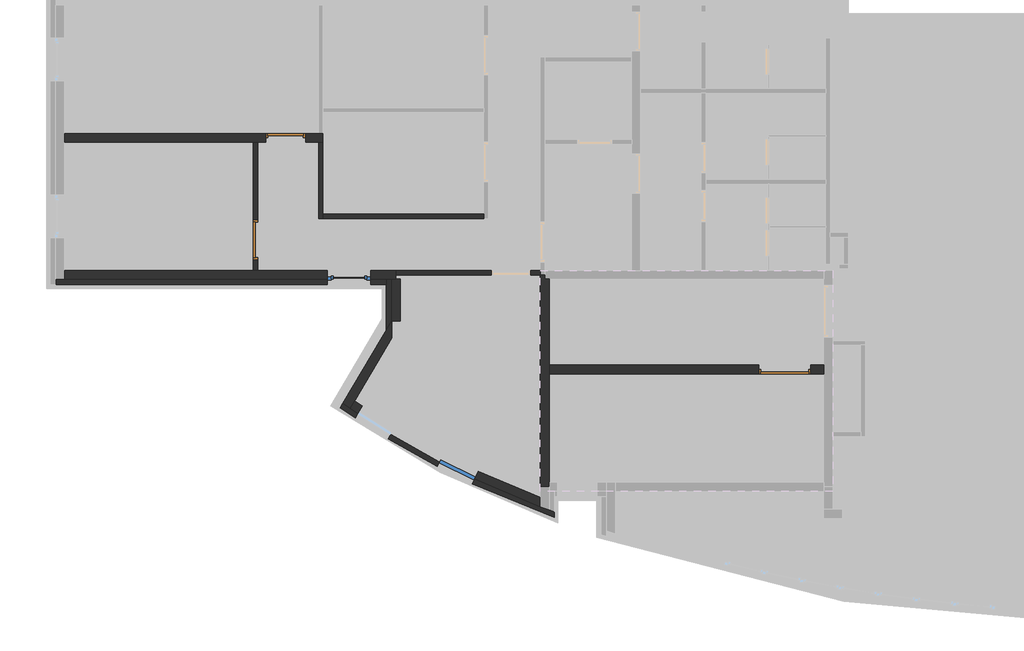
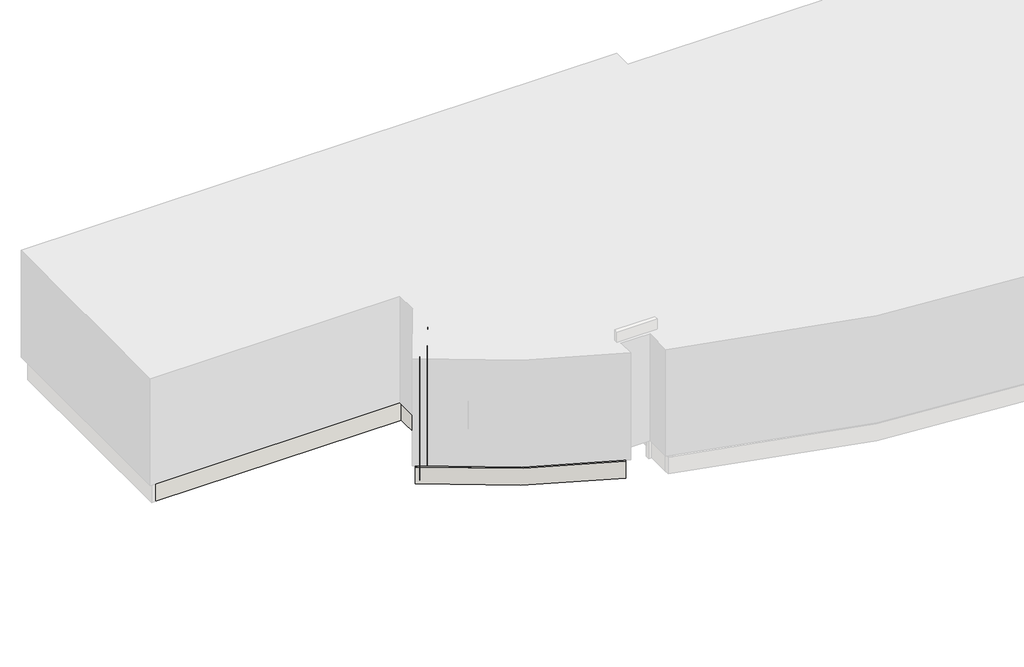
# One storey, part 2 of 4: 20 walls, 3 doors, 2 windows.
"""IFC4 building model written with IfcOpenShell, lengths in millimetres."""

from ifc_helpers import new_model, si_unit, point, frame, frame_2d, origin, place, context, project, spatial, polyline, circle_curve, trimmed, segment, composite_curve, outline, extrude, faceted_brep, transform, mapped, element, save
from ifc_brep_helpers import plane_surface, cylinder_surface, revolved_surface, advanced_brep
from components import door_d1c1a40c, door_13706d25, door_d9ea8988, window_329c73b1, window_b37a0a77

model = new_model("IFC4")

# Units and contexts
model_context = context("Model", 3, world=origin())
ifc_project = project(units=[si_unit("LENGTHUNIT", "METRE", prefix="MILLI")], contexts=[model_context])

# Site, building, storey
site = spatial("IfcSite", under=ifc_project)
building = spatial("IfcBuilding", under=site)
storey = spatial("IfcBuildingStorey", under=building, Name="Этаж 2", Elevation=3600.0)

# Doors
placement = place(None, origin())
door_shape = door_d1c1a40c(model_context)
element("IfcDoor", 1, ObjectType="(Dr)_ДУ(распашная)_1Ст_Прямоугольная : (Вн)_ДГ(0.91х2.1(h))", at=placement, inside=storey, context=model_context, shape_type="MappedRepresentation", body=[
    mapped(door_shape, transform((2999.6298105, 5584.8038142, 3600.0), x_axis=(0.0, 1.0, 0.0), y_axis=(-1.0, 0.0, 0.0), z_axis=(0.0, 0.0, 1.0))),
])
door_2_shape = door_13706d25(model_context)
element("IfcDoor", 2, ObjectType="(Dr)_ДУ(распашная)_1Ст_Прямоугольная : (Вн)_ДГ(0.92х2.1(h))", at=placement, inside=storey, context=model_context, shape_type="MappedRepresentation", body=[
    mapped(door_2_shape, transform((3690.043372, 7935.0, 3600.0), x_axis=(1.0, 0.0, 0.0), y_axis=(0.0, 1.0, 0.0), z_axis=(0.0, 0.0, 1.0))),
])
door_3_shape = door_d9ea8988(model_context)
element("IfcDoor", 3, ObjectType="(Dr)_ДУ(распашная)_1Ст_Прямоугольная : (Вн)_ДГ(1.20х2.1(h))", at=placement, inside=storey, context=model_context, shape_type="MappedRepresentation", body=[
    mapped(door_3_shape, transform((15170.291724, 2600.0, 3600.0), x_axis=(-1.0, 0.0, 0.0), y_axis=(0.0, -1.0, 0.0), z_axis=(0.0, 0.0, 1.0))),
])

# Walls
element("IfcWall", 4, ObjectType="(Нр)_(ЖБ-200)", at=placement, inside=storey, context=model_context, shape_type="SweptSolid", body=[
    extrude(outline(polyline([(3500.0, 6230.291724), (6900.0, 6230.291724), (6900.0, -1395.9332962), (3500.0, -1395.9332962), (3500.0, 6230.291724)]), holes=[polyline([(6420.0, 5650.0892189), (4420.0, 5650.0892189), (4420.0, 4650.0892189), (6420.0, 4650.0892189), (6420.0, 5650.0892189)])]), frame((0.0, 4680.0, 0.0), z_axis=(0.0, 1.0, 0.0), x_axis=(0.0, 0.0, 1.0)), (0.0, 0.0, 1.0), 200.0),
])
element("IfcWall", 5, ObjectType="(Вн)_(ЖБ-200)", at=placement, inside=storey, context=model_context, shape_type="SweptSolid", body=[
    extrude(outline(polyline([(3500.0, -1395.9332962), (3500.0, 4550.043372), (6900.0, 4550.043372), (6900.0, -1395.9332962), (3500.0, -1395.9332962)]), holes=[polyline([(5700.0, 4150.043372), (3600.0, 4150.043372), (3600.0, 3230.043372), (5700.0, 3230.043372), (5700.0, 4150.043372)])]), frame((0.0, 7835.0, 0.0), z_axis=(0.0, 1.0, 0.0), x_axis=(0.0, 0.0, 1.0)), (0.0, 0.0, 1.0), 200.0),
])
element("IfcWall", 6, ObjectType="(Вн)_(Пг-100)", at=placement, inside=storey, context=model_context, shape_type="SweptSolid", body=[
    extrude(outline(polyline([(7835.0, 3500.0), (4880.0, 3500.0), (4880.0, 6900.0), (7835.0, 6900.0), (7835.0, 3500.0)]), holes=[polyline([(6039.8038142, 3600.0), (6039.8038142, 5700.0), (5129.8038142, 5700.0), (5129.8038142, 3600.0), (6039.8038142, 3600.0)])]), frame((2949.6298105, 0.0, 0.0), z_axis=(1.0, 0.0, 0.0), x_axis=(0.0, 1.0, 0.0)), (0.0, 0.0, 1.0), 100.0),
])
element("IfcWall", 7, ObjectType="(Вн)_(Пг-100)", at=placement, inside=storey, context=model_context, shape_type="Brep", body=[
    faceted_brep([(4450.043372, 7835.0, 3500.0), (4450.043372, 6080.2697772, 3500.0), (4450.043372, 6080.2697772, 6900.0), (4450.043372, 7835.0, 6900.0), (4550.043372, 7835.0, 3500.0), (4550.043372, 7835.0, 6900.0), (4550.043372, 6180.2697772, 6900.0), (4550.043372, 6080.2697772, 6900.0), (4550.043372, 6080.2697772, 3500.0), (4550.043372, 6180.2697772, 3500.0)], [[[0, 1, 2, 3]], [[4, 5, 6, 7, 8, 9]], [[1, 0, 4, 9, 8]], [[3, 2, 7, 6, 5]], [[0, 3, 5, 4]], [[2, 1, 8, 7]]]),
])
element("IfcWall", 8, ObjectType="(Вн)_(Пг-100)", at=placement, inside=storey, context=model_context, shape_type="SweptSolid", body=[
    extrude(outline(polyline([(3500.0, 9550.291724), (6900.0, 9550.291724), (6900.0, 6230.291724), (3500.0, 6230.291724), (3500.0, 9550.291724)]), holes=[polyline([(3600.0, 8420.1478669), (5700.0, 8420.1478669), (5700.0, 9330.1478669), (3600.0, 9330.1478669), (3600.0, 8420.1478669)])]), frame((0.0, 4780.0, 0.0), z_axis=(0.0, 1.0, 0.0), x_axis=(0.0, 0.0, 1.0)), (0.0, 0.0, 1.0), 100.0),
])
element("IfcWall", 9, ObjectType="(Нр)_(ПБ-200)", at=placement, inside=storey, context=model_context, shape_type="SweptSolid", body=[
    extrude(outline(polyline([(3721.6070558, 6700.0), (3958.0630982, 6700.0), (3958.0630982, 6900.0), (4680.0, 6900.0), (4680.0, 3500.0), (3721.6070558, 3500.0), (3721.6070558, 6700.0)])), frame((6130.291724, 0.0, 0.0), z_axis=(1.0, 0.0, 0.0), x_axis=(0.0, 1.0, 0.0)), (0.0, 0.0, 1.0), 200.0),
])
element("IfcWall", 10, ObjectType="(Нр)_(ПБ-200)", at=placement, inside=storey, context=model_context, shape_type="AdvancedBrep", body=[
    advanced_brep(
    [(5175.8267582, 1706.9624773, 3500.0), (5277.5419392, 1879.6609649, 3500.0), (6130.291724, 3327.5136519, 3500.0), (6130.291724, 3327.5136519, 6700.0), (5277.5419392, 1879.6609649, 6700.0), (5175.8267582, 1706.9624773, 6700.0), (5010.5900969, 1820.5065944, 3500.0), (5010.5900969, 1820.5065944, 6700.0), (6130.291724, 3721.6070558, 6700.0), (6130.291724, 3721.6070558, 3500.0)],
    [
        (0, 1),
        (1, 2),
        (2, 3),
        (3, 4),
        (4, 5),
        (5, 0),
        (6, 7),
        (7, 8),
        (8, 9),
        (9, 6),
        (0, 6, circle_curve(frame((16778.7203102, 18769.2388228, 3500.0), z_axis=(0.0, 0.0, -1.0), x_axis=(1.0, 0.0, 0.0)), 20633.6718223)),
        (9, 2),
        (3, 8),
        (7, 5, circle_curve(frame((16778.7203102, 18769.2388228, 6700.0), z_axis=(0.0, 0.0, 1.0), x_axis=(1.0, 0.0, 0.0)), 20633.6718223)),
    ],
    [
        plane_surface(frame((5277.5419392, 1879.6609649, 3500.0), z_axis=(0.8616553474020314, -0.5074939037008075, 0.0), x_axis=(0.5074939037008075, 0.8616553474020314, 0.0))),
        plane_surface(frame((5105.2108697, 1981.1597457, 3500.0), z_axis=(-0.8616553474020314, 0.5074939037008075, 0.0), x_axis=(-0.5074939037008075, -0.8616553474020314, 0.0))),
        plane_surface(frame((5230.1238922, 1799.1515964, 3500.0), z_axis=(0.0, 0.0, -1.0), x_axis=(-0.8616553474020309, 0.5074939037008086, 0.0))),
        plane_surface(frame((6316.4572587, 3643.5973079, 6700.0), z_axis=(0.0, 0.0, 1.0), x_axis=(-0.8616553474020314, 0.5074939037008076, 0.0))),
        plane_surface(frame((6130.291724, 3721.6070558, 3500.0), z_axis=(1.0, 0.0, 0.0), x_axis=(0.0, 0.0, 1.0))),
        cylinder_surface(frame((16778.7203102, 18769.2388228, 3500.0), z_axis=(0.0, 0.0, 1.0), x_axis=(1.0, 0.0, 0.0)), 20633.6718223),
    ],
    [
        (0, [[1, 2, 3, 4, 5, 6]]),
        (1, [[7, 8, 9, 10]]),
        (2, [[-2, -1, 11, -10, 12]]),
        (3, [[-5, -4, 13, -8, 14]]),
        (4, [[-3, -12, -9, -13]]),
        (5, [[-6, -14, -7, -11]]),
    ],
),
])
element("IfcWall", 11, ObjectType="(Нр)_(ПБ-200)", at=placement, inside=storey, context=model_context, shape_type="AdvancedBrep", body=[
    advanced_brep(
    [(5175.8267582, 1706.9624773, 6700.0), (9550.291724, -556.8635531, 6700.0), (9550.291724, -343.1855214, 6700.0), (5277.5419392, 1879.6609649, 6700.0), (5175.8267582, 1706.9624773, 3500.0), (5277.5419392, 1879.6609649, 3500.0), (9550.291724, -343.1855214, 3500.0), (9550.291724, -556.8635531, 3500.0), (6113.1175054, 1105.9059074, 5640.0), (6113.1175054, 1105.9059074, 4740.0), (5353.0068908, 1587.8103104, 4740.0), (5353.0068908, 1587.8103104, 5640.0), (8037.7364339, 78.5027821, 5640.0), (8037.7364339, 78.5027821, 4740.0), (7230.9923588, 477.4564101, 4740.0), (7230.9923588, 477.4564101, 5640.0), (6220.233099, 1274.8599556, 5640.0), (5460.1224844, 1756.7643585, 5640.0), (5460.1224844, 1756.7643585, 4740.0), (6220.233099, 1274.8599556, 4740.0), (8126.4140937, 257.822311, 5640.0), (7319.6700185, 656.7759389, 5640.0), (7319.6700185, 656.7759389, 4740.0), (8126.4140937, 257.822311, 4740.0)],
    [
        (0, 1, circle_curve(frame((16778.7203102, 18769.2388228, 6700.0), z_axis=(0.0, 0.0, 1.0), x_axis=(1.0, 0.0, 0.0)), 20633.6718223)),
        (1, 2),
        (2, 3, circle_curve(frame((16778.7203102, 18769.2388228, 6700.0), z_axis=(0.0, 0.0, -1.0), x_axis=(1.0, 0.0, 0.0)), 20433.6718223)),
        (3, 0),
        (4, 5),
        (5, 6, circle_curve(frame((16778.7203102, 18769.2388228, 3500.0), z_axis=(0.0, 0.0, 1.0), x_axis=(1.0, 0.0, 0.0)), 20433.6718223)),
        (6, 7),
        (7, 4, circle_curve(frame((16778.7203102, 18769.2388228, 3500.0), z_axis=(0.0, 0.0, -1.0), x_axis=(1.0, 0.0, 0.0)), 20633.6718223)),
        (0, 4),
        (7, 1),
        (8, 9),
        (9, 10, circle_curve(frame((16778.7203102, 18769.2388228, 4740.0), z_axis=(0.0, 0.0, -1.0), x_axis=(1.0, 0.0, 0.0)), 20633.6718223)),
        (10, 11),
        (11, 8, circle_curve(frame((16778.7203102, 18769.2388228, 5640.0), z_axis=(0.0, 0.0, 1.0), x_axis=(1.0, 0.0, 0.0)), 20633.6718223)),
        (12, 13),
        (13, 14, circle_curve(frame((16778.7203102, 18769.2388228, 4740.0), z_axis=(0.0, 0.0, -1.0), x_axis=(1.0, 0.0, 0.0)), 20633.6718223)),
        (14, 15),
        (15, 12, circle_curve(frame((16778.7203102, 18769.2388228, 5640.0), z_axis=(0.0, 0.0, 1.0), x_axis=(1.0, 0.0, 0.0)), 20633.6718223)),
        (2, 6),
        (5, 3),
        (16, 17, circle_curve(frame((16778.7203102, 18769.2388228, 5640.0), z_axis=(0.0, 0.0, -1.0), x_axis=(1.0, 0.0, 0.0)), 20433.6718223)),
        (17, 18),
        (18, 19, circle_curve(frame((16778.7203102, 18769.2388228, 4740.0), z_axis=(0.0, 0.0, 1.0), x_axis=(1.0, 0.0, 0.0)), 20433.6718223)),
        (19, 16),
        (20, 21, circle_curve(frame((16778.7203102, 18769.2388228, 5640.0), z_axis=(0.0, 0.0, -1.0), x_axis=(1.0, 0.0, 0.0)), 20433.6718223)),
        (21, 22),
        (22, 23, circle_curve(frame((16778.7203102, 18769.2388228, 4740.0), z_axis=(0.0, 0.0, 1.0), x_axis=(1.0, 0.0, 0.0)), 20433.6718223)),
        (23, 20),
        (8, 16),
        (19, 9),
        (18, 10),
        (17, 11),
        (12, 20),
        (23, 13),
        (22, 14),
        (21, 15),
    ],
    [
        plane_surface(frame((37412.3921325, 18769.2388228, 6700.0), z_axis=(0.0, 0.0, 1.0), x_axis=(0.0, 1.0, 0.0))),
        plane_surface(frame((37412.3921325, 18769.2388228, 3500.0), z_axis=(0.0, 0.0, -1.0), x_axis=(0.0, -1.0, 0.0))),
        cylinder_surface(frame((16778.7203102, 18769.2388228, 3500.0), z_axis=(0.0, 0.0, 1.0), x_axis=(1.0, 0.0, 0.0)), 20633.6718223),
        revolved_surface(polyline([(37212.3921325, 18769.2388228, 3500.0), (37212.3921325, 18769.2388228, 6700.0)]), (16778.7203102, 18769.2388228, 3500.0), (0.0, 0.0, -1.0)),
        plane_surface(frame((5277.5419392, 1879.6609649, 3500.0), z_axis=(-0.8616553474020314, 0.5074939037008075, 0.0), x_axis=(0.5074939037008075, 0.8616553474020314, 0.0))),
        plane_surface(frame((9550.291724, -200.0, 3500.0), z_axis=(1.0, 0.0, 0.0), x_axis=(0.0, -1.0, 0.0))),
        plane_surface(frame((6113.1175054, 1105.9059074, 5640.0), z_axis=(-0.8445673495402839, 0.5354493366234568, 0.0), x_axis=(0.5354493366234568, 0.8445673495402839, 0.0))),
        plane_surface(frame((6113.1175054, 1105.9059074, 4740.0), z_axis=(0.0, 0.0, 1.0), x_axis=(0.5354493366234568, 0.8445673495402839, 0.0))),
        plane_surface(frame((5353.0068908, 1587.8103104, 4740.0), z_axis=(0.8445673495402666, -0.5354493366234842, 0.0), x_axis=(0.5354493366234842, 0.8445673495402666, 0.0))),
        plane_surface(frame((5353.0068908, 1587.8103104, 5640.0), z_axis=(0.0, 0.0, -1.0), x_axis=(0.5354493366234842, 0.8445673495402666, 0.0))),
        plane_surface(frame((8037.7364339, 78.5027821, 5640.0), z_axis=(-0.8963823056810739, 0.4432818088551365, 0.0), x_axis=(0.4432818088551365, 0.8963823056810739, 0.0))),
        plane_surface(frame((8037.7364339, 78.5027821, 4740.0), z_axis=(0.0, 0.0, 1.0), x_axis=(0.4432818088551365, 0.8963823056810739, 0.0))),
        plane_surface(frame((7230.9923588, 477.4564101, 4740.0), z_axis=(0.8963823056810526, -0.44328180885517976, 0.0), x_axis=(0.44328180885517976, 0.8963823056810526, 0.0))),
        plane_surface(frame((7230.9923588, 477.4564101, 5640.0), z_axis=(0.0, 0.0, -1.0000000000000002), x_axis=(0.44328180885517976, 0.8963823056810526, 0.0))),
    ],
    [
        (0, [[1, 2, 3, 4]]),
        (1, [[5, 6, 7, 8]]),
        (2, [[-1, 9, -8, 10], [11, 12, 13, 14], [15, 16, 17, 18]]),
        (3, [[-3, 19, -6, 20], [21, 22, 23, 24], [25, 26, 27, 28]]),
        (4, [[-4, -20, -5, -9]]),
        (5, [[-2, -10, -7, -19]]),
        (6, [[-11, 29, -24, 30]]),
        (7, [[-12, -30, -23, 31]]),
        (8, [[-13, -31, -22, 32]]),
        (9, [[-14, -32, -21, -29]]),
        (10, [[-15, 33, -28, 34]]),
        (11, [[-16, -34, -27, 35]]),
        (12, [[-17, -35, -26, 36]]),
        (13, [[-18, -36, -25, -33]]),
    ],
),
])
element("IfcWall", 12, ObjectType="(Нр)_(Ут-120.От-90)", at=placement, inside=storey, context=model_context, shape_type="Brep", body=[
    faceted_brep([(6130.291724, 3721.6070558, 6700.0), (6130.291724, 3721.6070558, 2955.0), (6130.291724, 4680.0, 2955.0), (6130.291724, 4680.0, 6700.0), (6010.291724, 3517.8634425, 2955.0), (6010.291724, 3517.8634425, 3500.0), (6010.291724, 3517.8634425, 6700.0), (6010.291724, 3754.3194849, 6700.0), (6010.291724, 4560.0, 6700.0), (6010.291724, 4680.0, 6700.0), (6010.291724, 4680.0, 2955.0), (6010.291724, 4560.0, 2955.0), (6010.291724, 3754.3194849, 2955.0)], [[[0, 1, 2, 3]], [[4, 5, 6, 7, 8, 9, 10, 11, 12]], [[2, 1, 4, 12, 11, 10]], [[0, 3, 9, 8, 7, 6]], [[3, 2, 10, 9]], [[0, 6, 5, 4, 1]]]),
])
element("IfcWall", 13, ObjectType="(Нр)_(Ут-120.От-90)", at=placement, inside=storey, context=model_context, shape_type="AdvancedBrep", body=[
    advanced_brep(
    [(4949.5217763, 1716.8209253, 3500.0), (5010.5900969, 1820.5065944, 3500.0), (5036.0358146, 1863.7099484, 3500.0), (6010.291724, 3517.8634425, 3500.0), (6010.291724, 3517.8634425, 6700.0), (5010.5900969, 1820.5065944, 6700.0), (4949.5217763, 1716.8209253, 6700.0), (4850.8283195, 1785.7089552, 3500.0), (4850.8283195, 1785.7089552, 6700.0), (6010.291724, 3754.3194849, 6700.0), (6010.291724, 3754.3194849, 3500.0), (4937.381453, 1932.6643566, 3500.0)],
    [
        (0, 1),
        (1, 2),
        (2, 3),
        (3, 4),
        (4, 5),
        (5, 6),
        (6, 0),
        (7, 8),
        (8, 9),
        (9, 10),
        (10, 11),
        (11, 7),
        (0, 7, circle_curve(frame((16778.7203102, 18769.2388228, 3500.0), z_axis=(0.0, 0.0, -1.0), x_axis=(1.0, 0.0, 0.0)), 20753.6718223)),
        (10, 3),
        (4, 9),
        (8, 6, circle_curve(frame((16778.7203102, 18769.2388228, 6700.0), z_axis=(0.0, 0.0, 1.0), x_axis=(1.0, 0.0, 0.0)), 20753.6718223)),
    ],
    [
        plane_surface(frame((5010.5244047, 1820.3950581, 3500.0), z_axis=(0.8616553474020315, -0.5074939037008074, 0.0), x_axis=(0.5074939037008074, 0.8616553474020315, 0.0))),
        plane_surface(frame((4907.125763, 1881.2943265, 3500.0), z_axis=(-0.8616553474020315, 0.5074939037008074, 0.0), x_axis=(-0.5074939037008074, -0.8616553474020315, 0.0))),
        plane_surface(frame((4982.3706034, 1772.5937481, 3500.0), z_axis=(0.0, 0.0, -1.0), x_axis=(-0.8616553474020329, 0.5074939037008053, 0.0))),
        plane_surface(frame((6121.9910448, 3707.5136361, 6700.0), z_axis=(0.0, 0.0, 1.0), x_axis=(-0.8616553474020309, 0.5074939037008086, 0.0))),
        plane_surface(frame((6010.291724, 3721.6070558, 2955.0), z_axis=(1.0, 0.0, 0.0), x_axis=(0.0, -1.0, 0.0))),
        cylinder_surface(frame((16778.7203102, 18769.2388228, 3500.0), z_axis=(0.0, 0.0, 1.0), x_axis=(1.0, 0.0, 0.0)), 20753.6718223),
    ],
    [
        (0, [[1, 2, 3, 4, 5, 6, 7]]),
        (1, [[8, 9, 10, 11, 12]]),
        (2, [[-3, -2, -1, 13, -12, -11, 14]]),
        (3, [[-6, -5, 15, -9, 16]]),
        (4, [[-4, -14, -10, -15]]),
        (5, [[-7, -16, -8, -13]]),
    ],
),
])
element("IfcWall", 14, ObjectType="(Нр)_(Ут-120.От-90)", at=placement, inside=storey, context=model_context, shape_type="AdvancedBrep", body=[
    advanced_brep(
    [(4949.5217763, 1716.8209253, 6700.0), (9870.291724, -800.8533736, 6700.0), (9870.291724, -673.5497462, 6700.0), (9750.2766971, -630.4875752, 6700.0), (5010.5900969, 1820.5065944, 6700.0), (9870.291724, -800.8533736, 3500.0), (4949.5217763, 1716.8209253, 3500.0), (5010.5900969, 1820.5065944, 3500.0), (9750.2766971, -630.4875752, 3500.0), (9870.291724, -673.5497462, 3500.0), (5289.4260685, 1485.9806828, 5640.0), (6049.5558743, 1004.1065516, 5640.0), (6049.5558743, 1004.1065516, 4780.0), (5289.4260685, 1485.9806828, 4780.0), (7177.0849329, 370.2309097, 5640.0), (7983.8138069, -28.7534557, 5640.0), (7983.8138069, -28.7534557, 4780.0), (7177.0849329, 370.2309097, 4780.0), (6113.8209552, 1105.4811643, 5640.0), (5353.6911494, 1587.3552956, 5640.0), (5353.6911494, 1587.3552956, 4740.0), (6113.8209552, 1105.4811643, 4740.0), (8037.0243049, 78.8358357, 5640.0), (7230.2954309, 477.8202011, 5640.0), (7230.2954309, 477.8202011, 4740.0), (8037.0243049, 78.8358357, 4740.0), (6102.9971429, 1088.4071987, 4740.0), (5342.8673371, 1570.2813299, 4740.0), (5342.8673371, 1570.2813299, 4780.0), (6102.9971429, 1088.4071987, 4780.0), (8028.0623549, 60.7151661, 4740.0), (7221.3334809, 459.6995315, 4740.0), (7221.3334809, 459.6995315, 4780.0), (8028.0623549, 60.7151661, 4780.0)],
    [
        (0, 1, circle_curve(frame((16778.7203102, 18769.2388228, 6700.0), z_axis=(0.0, 0.0, 1.0), x_axis=(1.0, 0.0, 0.0)), 20753.6718223)),
        (1, 2),
        (2, 3, circle_curve(frame((16778.7203102, 18769.2388228, 6700.0), z_axis=(0.0, 0.0, -1.0), x_axis=(1.0, 0.0, 0.0)), 20633.6718223)),
        (3, 4, circle_curve(frame((16778.7203102, 18769.2388228, 6700.0), z_axis=(0.0, 0.0, -1.0), x_axis=(1.0, 0.0, 0.0)), 20633.671606)),
        (4, 0),
        (5, 6, circle_curve(frame((16778.7203102, 18769.2388228, 3500.0), z_axis=(0.0, 0.0, -1.0), x_axis=(1.0, 0.0, 0.0)), 20753.6718223)),
        (6, 7),
        (7, 8, circle_curve(frame((16778.7203102, 18769.2388228, 3500.0), z_axis=(0.0, 0.0, 1.0), x_axis=(1.0, 0.0, 0.0)), 20633.6718223)),
        (8, 9, circle_curve(frame((16778.7203102, 18769.2388228, 3500.0), z_axis=(0.0, 0.0, 1.0), x_axis=(1.0, 0.0, 0.0)), 20633.671606)),
        (9, 5),
        (0, 6),
        (5, 1),
        (10, 11, circle_curve(frame((16778.7203102, 18769.2388228, 5640.0), z_axis=(0.0, 0.0, 1.0), x_axis=(1.0, 0.0, 0.0)), 20753.6718223)),
        (11, 12),
        (12, 13, circle_curve(frame((16778.7203102, 18769.2388228, 4780.0), z_axis=(0.0, 0.0, -1.0), x_axis=(1.0, 0.0, 0.0)), 20753.6718223)),
        (13, 10),
        (14, 15, circle_curve(frame((16778.7203102, 18769.2388228, 5640.0), z_axis=(0.0, 0.0, 1.0), x_axis=(1.0, 0.0, 0.0)), 20753.6718223)),
        (15, 16),
        (16, 17, circle_curve(frame((16778.7203102, 18769.2388228, 4780.0), z_axis=(0.0, 0.0, -1.0), x_axis=(1.0, 0.0, 0.0)), 20753.6718223)),
        (17, 14),
        (2, 9),
        (7, 4),
        (18, 19, circle_curve(frame((16778.7203102, 18769.2388228, 5640.0), z_axis=(0.0, 0.0, -1.0), x_axis=(1.0, 0.0, 0.0)), 20633.6718223)),
        (19, 20),
        (20, 21, circle_curve(frame((16778.7203102, 18769.2388228, 4740.0), z_axis=(0.0, 0.0, 1.0), x_axis=(1.0, 0.0, 0.0)), 20633.6718223)),
        (21, 18),
        (22, 23, circle_curve(frame((16778.7203102, 18769.2388228, 5640.0), z_axis=(0.0, 0.0, -1.0), x_axis=(1.0, 0.0, 0.0)), 20633.6718223)),
        (23, 24),
        (24, 25, circle_curve(frame((16778.7203102, 18769.2388228, 4740.0), z_axis=(0.0, 0.0, 1.0), x_axis=(1.0, 0.0, 0.0)), 20633.6718223)),
        (25, 22),
        (26, 27),
        (27, 28),
        (28, 29),
        (29, 26),
        (10, 19),
        (18, 11),
        (29, 12),
        (21, 26),
        (20, 27),
        (13, 28),
        (30, 31),
        (31, 32),
        (32, 33),
        (33, 30),
        (14, 23),
        (22, 15),
        (33, 16),
        (25, 30),
        (24, 31),
        (17, 32),
    ],
    [
        plane_surface(frame((37532.3921325, 18769.2388228, 6700.0), z_axis=(0.0, 0.0, 1.0), x_axis=(0.0, 1.0, 0.0))),
        plane_surface(frame((37532.3921325, 18769.2388228, 3500.0), z_axis=(0.0, 0.0, -1.0), x_axis=(0.0, -1.0, 0.0))),
        cylinder_surface(frame((16778.7203102, 18769.2388228, 3500.0), z_axis=(0.0, 0.0, 1.0), x_axis=(1.0, 0.0, 0.0)), 20753.6718223),
        revolved_surface(polyline([(37412.3921325, 18769.2388228, 3500.0), (37412.3921325, 18769.2388228, 6700.0)]), (16778.7203102, 18769.2388228, 3500.0), (0.0, 0.0, -1.0)),
        plane_surface(frame((5010.5244047, 1820.3950581, 3500.0), z_axis=(-0.8616553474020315, 0.5074939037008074, 0.0), x_axis=(0.5074939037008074, 0.8616553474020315, 0.0))),
        plane_surface(frame((9870.291724, -200.0, 3500.0), z_axis=(1.0, 0.0, 0.0), x_axis=(0.0, 1.0, 0.0))),
        plane_surface(frame((6102.9971429, 1088.4071987, 5640.0), z_axis=(0.5354157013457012, 0.8445886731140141, 0.0), x_axis=(-0.8445886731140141, 0.5354157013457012, 0.0))),
        plane_surface(frame((5380.3464362, 1629.402537, 5640.0), z_axis=(0.0, 0.0, -1.0000000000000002), x_axis=(-0.5354157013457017, -0.8445886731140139, 0.0))),
        plane_surface(frame((6140.476242, 1147.5284058, 5640.0), z_axis=(-0.8445886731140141, 0.5354157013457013, 0.0), x_axis=(-0.5354157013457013, -0.8445886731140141, 0.0))),
        plane_surface(frame((6140.476242, 1147.5284058, 4740.0), z_axis=(0.0, 0.0, 1.0), x_axis=(-0.5354157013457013, -0.8445886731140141, 0.0))),
        plane_surface(frame((5380.3464362, 1629.402537, 4740.0), z_axis=(0.8445886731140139, -0.5354157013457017, 0.0), x_axis=(-0.5354157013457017, -0.8445886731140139, 0.0))),
        plane_surface(frame((5722.93224, 1329.3442643, 4780.0), z_axis=(0.0, 0.0, 1.0), x_axis=(0.8445886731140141, -0.5354157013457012, 0.0))),
        plane_surface(frame((8028.0623549, 60.7151661, 5640.0), z_axis=(0.44331596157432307, 0.8963654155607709, 0.0), x_axis=(-0.8963654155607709, 0.44331596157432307, 0.0))),
        plane_surface(frame((7252.3655982, 522.4451106, 5640.0), z_axis=(0.0, 0.0, -1.0), x_axis=(-0.44331596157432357, -0.8963654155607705, 0.0))),
        plane_surface(frame((8059.0944722, 123.4607451, 5640.0), z_axis=(-0.8963654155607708, 0.44331596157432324, 0.0), x_axis=(-0.44331596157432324, -0.8963654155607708, 0.0))),
        plane_surface(frame((8059.0944722, 123.4607451, 4740.0), z_axis=(0.0, 0.0, 1.0), x_axis=(-0.44331596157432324, -0.8963654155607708, 0.0))),
        plane_surface(frame((7252.3655982, 522.4451106, 4740.0), z_axis=(0.8963654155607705, -0.44331596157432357, 0.0), x_axis=(-0.44331596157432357, -0.8963654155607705, 0.0))),
        plane_surface(frame((7624.6979179, 260.2073488, 4780.0), z_axis=(0.0, 0.0, 1.0000000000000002), x_axis=(0.8963654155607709, -0.44331596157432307, 0.0))),
    ],
    [
        (0, [[1, 2, 3, 4, 5]]),
        (1, [[6, 7, 8, 9, 10]]),
        (2, [[-1, 11, -6, 12], [13, 14, 15, 16], [17, 18, 19, 20]]),
        (3, [[-4, -3, 21, -9, -8, 22], [23, 24, 25, 26], [27, 28, 29, 30]]),
        (4, [[-5, -22, -7, -11]]),
        (5, [[-2, -12, -10, -21]]),
        (6, [[31, 32, 33, 34]]),
        (7, [[35, -23, 36, -13]]),
        (8, [[-34, 37, -14, -36, -26, 38]]),
        (9, [[-31, -38, -25, 39]]),
        (10, [[-32, -39, -24, -35, -16, 40]]),
        (11, [[-33, -40, -15, -37]]),
        (12, [[41, 42, 43, 44]]),
        (13, [[45, -27, 46, -17]]),
        (14, [[-44, 47, -18, -46, -30, 48]]),
        (15, [[-41, -48, -29, 49]]),
        (16, [[-42, -49, -28, -45, -20, 50]]),
        (17, [[-43, -50, -19, -47]]),
    ],
),
])
element("IfcWall", 15, ObjectType="(Нр)_(Ут-120.От-90)", at=placement, inside=storey, context=model_context, shape_type="Brep", body=[
    faceted_brep([(6010.291724, 4680.0, 2955.0), (-1595.9332962, 4680.0, 2955.0), (-1595.9332962, 4680.0, 6900.0), (6180.291724, 4680.0, 6900.0), (6180.291724, 4680.0, 6700.0), (6130.291724, 4680.0, 6700.0), (6010.291724, 4680.0, 6700.0), (5650.0892189, 4680.0, 6420.0), (4650.0892189, 4680.0, 6420.0), (4650.0892189, 4680.0, 4420.0), (5650.0892189, 4680.0, 4420.0), (6010.291724, 4560.0, 2955.0), (6010.291724, 4560.0, 6700.0), (6180.291724, 4560.0, 6700.0), (6180.291724, 4560.0, 6900.0), (6010.291724, 4560.0, 6900.0), (-1595.9332962, 4560.0, 6900.0), (-1595.9332962, 4560.0, 2955.0), (4650.0892189, 4560.0, 6420.0), (5650.0892189, 4560.0, 6420.0), (5650.0892189, 4560.0, 4460.0), (4650.0892189, 4560.0, 4460.0), (5650.0892189, 4660.0, 4420.0), (4650.0892189, 4660.0, 4420.0), (4650.0892189, 4660.0, 4460.0), (5650.0892189, 4660.0, 4460.0), (5650.0892189, 4584.565173, 6420.0), (4650.0892189, 4584.565173, 6420.0), (5650.0892189, 4584.565173, 4460.0), (4650.0892189, 4584.565173, 4460.0)], [[[0, 1, 2, 3, 4, 5, 6], [7, 8, 9, 10]], [[11, 12, 13, 14, 15, 16, 17], [18, 19, 20, 21]], [[1, 0, 11, 17]], [[3, 2, 16, 15, 14]], [[2, 1, 17, 16]], [[4, 13, 12, 6, 5]], [[0, 6, 12, 11]], [[4, 3, 14, 13]], [[22, 23, 24, 25]], [[8, 7, 26, 19, 18, 27]], [[10, 22, 25, 28, 20, 19, 26, 7]], [[23, 22, 10, 9]], [[23, 9, 8, 27, 18, 21, 29, 24]], [[21, 20, 28, 25, 24, 29]]]),
])
element("IfcWall", 16, ObjectType="(Вн)_(ЖБ-200)", at=placement, inside=storey, context=model_context, shape_type="SweptSolid", body=[
    extrude(outline(polyline([(3500.0, 9750.291724), (3500.0, 16070.291724), (5700.0, 16070.291724), (5700.0, 15770.291724), (3600.0, 15770.291724), (3600.0, 14570.291724), (5700.0, 14570.291724), (5700.0, 9750.291724), (3500.0, 9750.291724)])), frame((0.0, 2500.0, 0.0), z_axis=(0.0, 1.0, 0.0), x_axis=(0.0, 0.0, 1.0)), (0.0, 0.0, 1.0), 200.0),
])
element("IfcWall", 17, ObjectType="(Вн)_(ЖБ-200)", at=placement, inside=storey, context=model_context, shape_type="Brep", body=[
    faceted_brep([(9750.291724, -260.0, 3500.0), (9750.291724, -200.0, 3500.0), (9750.291724, 0.0, 3500.0), (9750.291724, 2500.0, 3500.0), (9750.291724, 2700.0, 3500.0), (9750.291724, 4680.0, 3500.0), (9750.291724, 4680.0, 5700.0), (9750.291724, 2700.0, 5700.0), (9750.291724, 2500.0, 5700.0), (9750.291724, 0.0, 5700.0), (9750.291724, -200.0, 5700.0), (9750.291724, -260.0, 5700.0), (9550.291724, -260.0, 3500.0), (9550.291724, -260.0, 5700.0), (9550.291724, 4780.0, 5700.0), (9550.291724, 4780.0, 3500.0), (9650.291724, 4780.0, 3500.0), (9650.291724, 4680.0, 3500.0), (9650.291724, 4680.0, 5700.0), (9650.291724, 4780.0, 5700.0)], [[[0, 1, 2, 3, 4, 5, 6, 7, 8, 9, 10, 11]], [[12, 13, 14, 15]], [[5, 4, 3, 2, 1, 0, 12, 15, 16, 17]], [[11, 10, 9, 8, 7, 6, 18, 19, 14, 13]], [[0, 11, 13, 12]], [[6, 5, 17, 18]], [[17, 16, 19, 18]], [[16, 15, 14, 19]]]),
])
element("IfcWall", 18, ObjectType="(Вн)_(Пг-100)", at=placement, inside=storey, context=model_context, shape_type="SweptSolid", body=[
    extrude(outline(polyline([(8250.4524319, 6080.2697772), (4550.043372, 6080.2697772), (4550.043372, 6180.2697772), (8250.4524319, 6180.2697772), (8250.4524319, 6080.2697772)])), frame((0.0, 0.0, 3500.0), z_axis=(0.0, 0.0, 1.0), x_axis=(1.0, 0.0, 0.0)), (0.0, 0.0, 1.0), 3400.0),
])
element("IfcWall", 19, ObjectType="(Нр)_(Ут-170.От-90)", at=placement, inside=storey, context=model_context, shape_type="AdvancedBrep", body=[
    advanced_brep(
    [(4850.8283195, 1785.7089552, 3500.0), (9872.291724, -801.5592777, 3500.0), (9872.291724, -621.1915455, 3500.0), (9752.275968, -578.0249633, 3500.0), (5036.0487375, 1863.7012294, 3500.0), (4937.381453, 1932.6643566, 3500.0), (4850.8283195, 1785.7089552, 2955.0), (4937.381453, 1932.6643566, 2955.0), (5036.0493598, 1863.7008198, 2955.0), (9872.291724, -621.1915455, 2955.0), (9872.291724, -801.5592777, 2955.0)],
    [
        (0, 1, circle_curve(frame((16778.7203102, 18769.2388228, 3500.0), z_axis=(0.0, 0.0, 1.0), x_axis=(1.0, 0.0, 0.0)), 20753.6718223)),
        (1, 2),
        (2, 3, circle_curve(frame((16778.7203102, 18769.2388228, 3500.0), z_axis=(0.0, 0.0, -1.0), x_axis=(1.0, 0.0, 0.0)), 20583.6718223)),
        (3, 4, circle_curve(frame((16778.7203102, 18769.2388228, 3500.0), z_axis=(0.0, 0.0, -1.0), x_axis=(1.0, 0.0, 0.0)), 20583.6715895)),
        (4, 5, circle_curve(frame((16778.7203102, 18769.2388228, 3500.0), z_axis=(0.0, 0.0, -1.0), x_axis=(1.0, 0.0, 0.0)), 20583.671611)),
        (5, 0),
        (6, 7),
        (7, 8, circle_curve(frame((16778.7203102, 18769.2388228, 2955.0), z_axis=(0.0, 0.0, 1.0), x_axis=(1.0, 0.0, 0.0)), 20583.6718223)),
        (8, 9, circle_curve(frame((16778.7203102, 18769.2388228, 2955.0), z_axis=(0.0, 0.0, 1.0), x_axis=(1.0, 0.0, 0.0)), 20583.6715924)),
        (9, 10),
        (10, 6, circle_curve(frame((16778.7203102, 18769.2388228, 2955.0), z_axis=(0.0, 0.0, -1.0), x_axis=(1.0, 0.0, 0.0)), 20753.6718223)),
        (0, 6),
        (10, 1),
        (2, 9),
        (7, 5),
    ],
    [
        plane_surface(frame((37532.3921325, 18769.2388228, 3500.0), z_axis=(0.0, 0.0, 1.0), x_axis=(0.0, 1.0, 0.0))),
        plane_surface(frame((37532.3921325, 18769.2388228, 2955.0), z_axis=(0.0, 0.0, -1.0), x_axis=(0.0, -1.0, 0.0))),
        cylinder_surface(frame((16778.7203102, 18769.2388228, 2955.0), z_axis=(0.0, 0.0, 1.0), x_axis=(1.0, 0.0, 0.0)), 20753.6718223),
        revolved_surface(polyline([(37362.3921325, 18769.2388228, 2955.0), (37362.3921325, 18769.2388228, 3500.0)]), (16778.7203102, 18769.2388228, 2955.0), (0.0, 0.0, -1.0)),
        plane_surface(frame((4907.125763, 1881.2943265, 2955.0), z_axis=(-0.8616553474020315, 0.5074939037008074, 0.0), x_axis=(-0.5074939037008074, -0.8616553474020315, 0.0))),
        plane_surface(frame((9872.291724, -200.0, 2930.0), z_axis=(1.0, 0.0, 0.0), x_axis=(0.0, 1.0, 0.0))),
    ],
    [
        (0, [[1, 2, 3, 4, 5, 6]]),
        (1, [[7, 8, 9, 10, 11]]),
        (2, [[-1, 12, -11, 13]]),
        (3, [[-5, -4, -3, 14, -9, -8, 15]]),
        (4, [[-6, -15, -7, -12]]),
        (5, [[-2, -13, -10, -14]]),
    ],
),
])
element("IfcWall", 20, ObjectType="(Нр)_(Ут-120.От-90)", at=placement, inside=storey, context=model_context, shape_type="SweptSolid", body=[
    extrude(outline(composite_curve([segment(polyline([(6010.291724, 3517.8634425), (5036.0358146, 1863.7099484)]), True, "CONTINUOUS"), segment(trimmed(circle_curve(frame_2d((16778.7203102, 18769.2388228)), 20583.6718223), [point((5036.0358146, 1863.7099484))], [point((4937.381453, 1932.6643566))], False, "CARTESIAN"), True, "CONTINUOUS"), segment(polyline([(4937.381453, 1932.6643566), (6010.291724, 3754.3194849), (6010.291724, 3517.8634425)]), True, "CONTINUOUS")], self_intersect=False)), frame((0.0, 0.0, 2955.0), z_axis=(0.0, 0.0, 1.0), x_axis=(1.0, 0.0, 0.0)), (0.0, 0.0, 1.0), 545.0),
])
element("IfcWall", 21, ObjectType="(Нр)_(Ут-170.От-90)", at=placement, inside=storey, context=model_context, shape_type="AdvancedBrep", body=[
    advanced_brep(
    [(5484.7609274, 1926.4622155, 3180.0), (9752.291724, -253.4303828, 3180.0), (9752.291724, -72.0994335, 3180.0), (5712.9569191, 1978.8963847, 3180.0), (5571.1835412, 2073.1960121, 3180.0), (5484.7609274, 1926.4622155, 2955.0), (5571.1835412, 2073.1960121, 2955.0), (5712.9569191, 1978.8963847, 2955.0), (9752.291724, -72.0994335, 2955.0), (9752.291724, -253.4303828, 2955.0)],
    [
        (0, 1, circle_curve(frame((16778.7203102, 18769.2388228, 3180.0), z_axis=(0.0, 0.0, 1.0), x_axis=(-0.5684832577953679, -0.8226948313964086, 0.0)), 20278.8718223)),
        (1, 2),
        (2, 3, circle_curve(frame((16778.7203102, 18769.2388228, 3180.0), z_axis=(0.0, 0.0, -1.0), x_axis=(-0.5684832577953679, -0.8226948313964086, 0.0)), 20108.8718223)),
        (3, 4, circle_curve(frame((16778.7203102, 18769.2388228, 3180.0), z_axis=(0.0, 0.0, -1.0), x_axis=(-0.5684832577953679, -0.8226948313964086, 0.0)), 20108.8716396)),
        (4, 0),
        (5, 6),
        (6, 7, circle_curve(frame((16778.7203102, 18769.2388228, 2955.0), z_axis=(0.0, 0.0, 1.0), x_axis=(-0.5684832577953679, -0.8226948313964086, 0.0)), 20108.8718223)),
        (7, 8, circle_curve(frame((16778.7203102, 18769.2388228, 2955.0), z_axis=(0.0, 0.0, 1.0), x_axis=(-0.5684832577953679, -0.8226948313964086, 0.0)), 20108.8716396)),
        (8, 9),
        (9, 5, circle_curve(frame((16778.7203102, 18769.2388228, 2955.0), z_axis=(0.0, 0.0, -1.0), x_axis=(-0.5684832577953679, -0.8226948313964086, 0.0)), 20278.8718223)),
        (0, 5),
        (9, 1),
        (2, 8),
        (6, 4),
    ],
    [
        plane_surface(frame((5250.5211922, 2085.9157881, 3180.0), z_axis=(0.0, 0.0, 1.0), x_axis=(0.8226948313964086, -0.5684832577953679, 0.0))),
        plane_surface(frame((5250.5211922, 2085.9157881, 2955.0), z_axis=(0.0, 0.0, -1.0), x_axis=(-0.8226948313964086, 0.5684832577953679, 0.0))),
        cylinder_surface(frame((16778.7203102, 18769.2388228, 2955.0), z_axis=(0.0, 0.0, 1.0), x_axis=(-0.5684832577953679, -0.8226948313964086, 0.0)), 20278.8718223),
        revolved_surface(polyline([(5347.1633460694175, 2225.7739093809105, 2955.0), (5347.1633460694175, 2225.7739093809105, 3180.0)]), (16778.7203102, 18769.2388228, 2955.0), (0.0, 0.0, -1.0)),
        plane_surface(frame((5484.7609274, 1926.4622155, 2955.0), z_axis=(-0.8616553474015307, 0.5074939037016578, 0.0), x_axis=(-0.5074939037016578, -0.8616553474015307, 0.0))),
        plane_surface(frame((9752.291724, -2478.1822589, 2943.75), z_axis=(1.0, 0.0, 0.0), x_axis=(0.0, 1.0, 0.0))),
    ],
    [
        (0, [[1, 2, 3, 4, 5]]),
        (1, [[6, 7, 8, 9, 10]]),
        (2, [[-1, 11, -10, 12]]),
        (3, [[-4, -3, 13, -8, -7, 14]]),
        (4, [[-5, -14, -6, -11]]),
        (5, [[-2, -12, -9, -13]]),
    ],
),
])
element("IfcWall", 22, ObjectType="(Нр)_(Ут-170.От-90)", at=placement, inside=storey, context=model_context, shape_type="AdvancedBrep", body=[
    advanced_brep(
    [(5712.9432196, 1978.9051946, 2955.0), (6655.091724, 3578.5446995, 2955.0), (6655.091724, 3578.5446995, 3180.0), (5712.9432196, 1978.9051946, 3180.0), (5571.1835412, 2073.1960121, 2955.0), (5571.1835412, 2073.1960121, 3180.0), (6485.091724, 3624.8873073, 3180.0), (6655.091724, 3913.5240929, 3180.0), (6655.091724, 3913.5240929, 2955.0), (6485.091724, 3624.8873073, 2955.0)],
    [
        (0, 1),
        (1, 2),
        (2, 3),
        (3, 0),
        (4, 5),
        (5, 6),
        (6, 7),
        (7, 8),
        (8, 9),
        (9, 4),
        (0, 4, circle_curve(frame((16778.7203102, 18769.2388228, 2955.0), z_axis=(0.0, 0.0, -1.0), x_axis=(-0.5684832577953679, -0.8226948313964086, 0.0)), 20108.8718223)),
        (8, 1),
        (2, 7),
        (5, 3, circle_curve(frame((16778.7203102, 18769.2388228, 3180.0), z_axis=(0.0, 0.0, 1.0), x_axis=(-0.5684832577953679, -0.8226948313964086, 0.0)), 20108.8718223)),
    ],
    [
        plane_surface(frame((5631.2423365, 1840.1882518, 2955.0), z_axis=(0.8616553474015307, -0.5074939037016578, 0.0), x_axis=(0.5074939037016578, 0.8616553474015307, 0.0))),
        plane_surface(frame((5484.7609274, 1926.4622155, 2955.0), z_axis=(-0.8616553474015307, 0.5074939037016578, 0.0), x_axis=(-0.5074939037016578, -0.8616553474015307, 0.0))),
        plane_surface(frame((5672.0112403, 1909.4082833, 2955.0), z_axis=(0.0, 0.0, -1.0000000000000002), x_axis=(-0.861655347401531, 0.5074939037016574, 0.0))),
        plane_surface(frame((6643.3324285, 3558.5790216, 3180.0), z_axis=(0.0, 0.0, 1.0), x_axis=(-0.8616553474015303, 0.5074939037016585, 0.0))),
        cylinder_surface(frame((16778.7203102, 18769.2388228, 2955.0), z_axis=(0.0, 0.0, -1.0), x_axis=(-0.5684832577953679, -0.8226948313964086, 0.0)), 20108.8718223),
        plane_surface(frame((6655.091724, 3624.8873073, 2955.0), z_axis=(1.0, 0.0, 0.0), x_axis=(0.0, 1.0, 0.0))),
    ],
    [
        (0, [[1, 2, 3, 4]]),
        (1, [[5, 6, 7, 8, 9, 10]]),
        (2, [[-1, 11, -10, -9, 12]]),
        (3, [[-3, 13, -7, -6, 14]]),
        (4, [[-4, -14, -5, -11]]),
        (5, [[-2, -12, -8, -13]]),
    ],
),
])
element("IfcWall", 23, ObjectType="(Нр)_(Ут-170.От-90)", at=placement, inside=storey, context=model_context, shape_type="SweptSolid", body=[
    extrude(outline(polyline([(6655.091724, 4620.0), (6655.091724, 3913.5240929), (6485.091724, 3624.8873073), (6485.091724, 4620.0), (6655.091724, 4620.0)])), frame((0.0, 0.0, 2955.0), z_axis=(0.0, 0.0, 1.0), x_axis=(1.0, 0.0, 0.0)), (0.0, 0.0, 1.0), 225.0),
])

# Windows
window_shape = window_329c73b1(model_context)
element("IfcWindow", 24, ObjectType="RFAM2316_Window-10 : Window  FIX (0,9x0,9)", at=placement, inside=storey, context=model_context, shape_type="MappedRepresentation", body=[
    mapped(window_shape, transform((7835.0139757, 106.0546118, 3840.0), x_axis=(-0.8963654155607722, 0.4433159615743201, 0.0), y_axis=(-0.4433159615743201, -0.8963654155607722, 0.0), z_axis=(0.0, 0.0, 1.0))),
])
window_2_shape = window_b37a0a77(model_context)
element("IfcWindow", 25, ObjectType="RFAM2316_Window-10 : Window  FIX (1,0x2)", at=placement, inside=storey, context=model_context, shape_type="MappedRepresentation", body=[
    mapped(window_2_shape, transform((5406.9476284, 4615.0592833, 3520.0), x_axis=(-1.0, 0.0, 0.0), y_axis=(0.0, -1.0, 0.0), z_axis=(0.0, 0.0, 1.0))),
])

save(model, "model.ifc")
